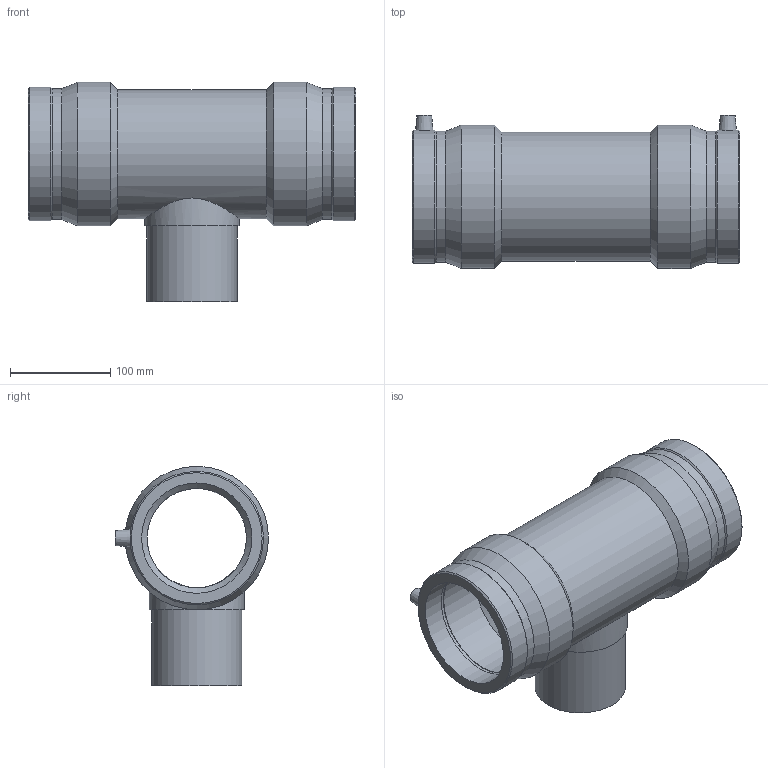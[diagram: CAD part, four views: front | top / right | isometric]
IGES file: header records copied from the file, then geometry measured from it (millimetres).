
Global section: file name: 491404110090.ipt; native system: Autodesk Inventor 2015; preprocessor: unknown; author: KIM; date: 20171106.093851; units: millimetre
Bounding box: 326 x 152.5 x 218.5 mm (x, y, z)
Volume: 1942566.1 mm3; surface area: 300186.4 mm2
Topology: 1 solids, 1 shells, 45 faces, 101 edges, 66 vertices
Faces by surface type: plane 12, revolution 12, cylinder 11, cone 10
Full cylindrical faces by diameter (mm): 4 x2, 90 x1, 94.5 x1, 128.7 x1, 130.33 x2, 132.99 x2, 143 x2
